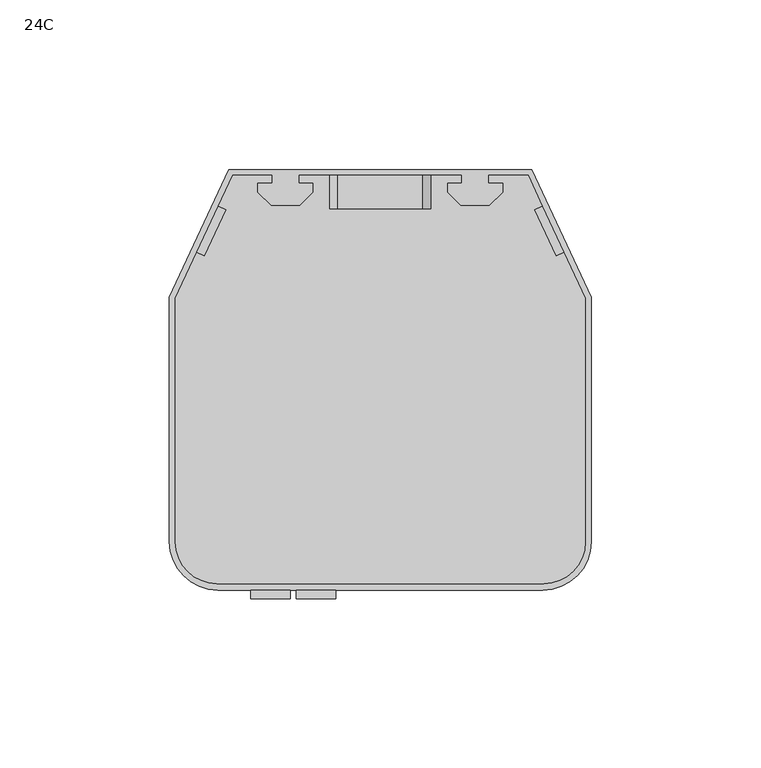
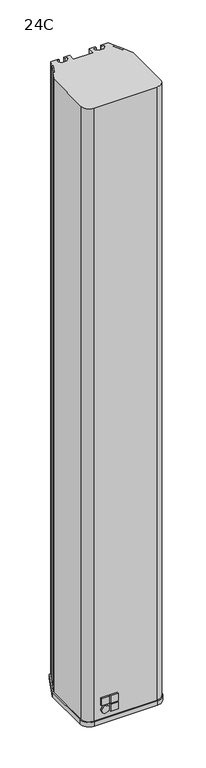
"""IFC4 building model written with IfcOpenShell, lengths in millimetres: proxy geometry, d&b xC-Series 24C Column : 24C."""

from ifc_helpers import new_model, si_unit, point, frame, frame_2d, origin, place, context, project, spatial, polyline, circle_curve, trimmed, segment, composite_curve, outline, extrude, source, transform, mapped, element, save
from ifc_brep_helpers import plane_surface, cylinder_surface, revolved_surface, advanced_brep


def proxy_24c_b1119e3b(model_context):
    return source(origin(), model_context, "Body", "SolidModel", [
        extrude(outline(polyline([(45.5615282, 50.1303765), (47.8272976, 51.1869221), (54.1607261, 37.604841), (51.8949566, 36.5482954), (45.5615282, 50.1303765)])), frame((0.0, 0.0, -493.0), z_axis=(0.0, 0.0, 1.0), x_axis=(1.0, 0.0, 0.0)), (0.0, 0.0, 1.0), 986.0),
        extrude(outline(polyline([(-45.5615282, 50.1303765), (-51.8949566, 36.5482954), (-54.1607261, 37.604841), (-47.8272976, 51.1869221), (-45.5615282, 50.1303765)])), frame((0.0, 0.0, -493.0), z_axis=(0.0, 0.0, 1.0), x_axis=(1.0, 0.0, 0.0)), (0.0, 0.0, 1.0), 986.0),
        advanced_brep(
        [(-32.05, 60.25, 493.0), (-43.601115, 60.25, 493.0), (-47.8272976, 51.1869221, 493.0), (-45.5615282, 50.1303765, 493.0), (-51.8949566, 36.5482954, 493.0), (-54.1607261, 37.604841, 493.0), (-60.5, 24.0102242, 493.0), (-60.5, -47.962132, 493.0), (-48.212132, -60.25, 493.0), (48.212132, -60.25, 493.0), (60.5, -47.962132, 493.0), (60.5, 24.0102242, 493.0), (54.1607261, 37.604841, 493.0), (51.8949566, 36.5482954, 493.0), (45.5615282, 50.1303765, 493.0), (47.8272976, 51.1869221, 493.0), (43.601115, 60.25, 493.0), (32.05, 60.25, 493.0), (32.05, 58.0499992, 493.0), (36.2500003, 58.0499992, 493.0), (36.2500003, 55.2955341, 493.0), (32.2044662, 51.25, 493.0), (23.7999989, 51.25, 493.0), (19.7499997, 55.2999992, 493.0), (19.7499997, 58.0499992, 493.0), (23.95, 58.0499992, 493.0), (23.95, 60.25, 493.0), (15.0, 60.25, 493.0), (15.0, 50.25, 493.0), (-15.0, 50.25, 493.0), (-15.0, 60.25, 493.0), (-23.95, 60.25, 493.0), (-23.95, 58.0499992, 493.0), (-19.7499997, 58.0499992, 493.0), (-19.7499997, 55.2999992, 493.0), (-23.7999989, 51.25, 493.0), (-32.2044662, 51.25, 493.0), (-36.2500003, 55.2955341, 493.0), (-36.2500003, 58.0499992, 493.0), (-32.05, 58.0499992, 493.0), (-32.05, 60.25, -493.0), (-32.05, 58.0499992, -493.0), (-36.2500003, 58.0499992, -493.0), (-36.2500003, 55.2955341, -493.0), (-32.2044662, 51.25, -493.0), (-23.7999989, 51.25, -493.0), (-19.7499997, 55.2999992, -493.0), (-19.7499997, 58.0499992, -493.0), (-23.95, 58.0499992, -493.0), (-23.95, 60.25, -493.0), (23.95, 60.25, -493.0), (23.95, 58.0499992, -493.0), (19.7499997, 58.0499992, -493.0), (19.7499997, 55.2999992, -493.0), (23.7999989, 51.25, -493.0), (32.2044662, 51.25, -493.0), (36.2500003, 55.2955341, -493.0), (36.2500003, 58.0499992, -493.0), (32.05, 58.0499992, -493.0), (32.05, 60.25, -493.0), (43.601115, 60.25, -493.0), (47.8272976, 51.1869221, -493.0), (45.5615282, 50.1303765, -493.0), (51.8949566, 36.5482954, -493.0), (54.1607261, 37.604841, -493.0), (60.5, 24.0102242, -493.0), (60.5, -47.962132, -493.0), (48.212132, -60.25, -493.0), (-48.212132, -60.25, -493.0), (-60.5, -47.962132, -493.0), (-60.5, 24.0102242, -493.0), (-54.1607261, 37.604841, -493.0), (-51.8949566, 36.5482954, -493.0), (-45.5615282, 50.1303765, -493.0), (-47.8272976, 51.1869221, -493.0), (-43.601115, 60.25, -493.0), (-15.0, 60.25, 461.5), (-12.5, 60.25, 459.0), (12.5, 60.25, 459.0), (15.0, 60.25, 461.5), (-3.375, 60.25, -263.5), (-3.375, 60.25, -365.0), (3.375, 60.25, -365.0), (3.375, 60.25, -263.5), (15.0, 50.25, 461.5), (12.5, 50.25, 459.0), (-12.5, 50.25, 459.0), (-15.0, 50.25, 461.5), (-3.375, 57.0, -365.0), (-3.375, 57.0, -263.5), (3.375, 57.0, -263.5), (3.375, 57.0, -365.0)],
        [
            (0, 1),
            (1, 2),
            (2, 3),
            (3, 4),
            (4, 5),
            (5, 6),
            (6, 7),
            (7, 8, circle_curve(frame((-48.212132, -47.962132, 493.0), z_axis=(0.0, 0.0, 1.0), x_axis=(-1.0, 0.0, 0.0)), 12.287868)),
            (8, 9),
            (9, 10, circle_curve(frame((48.212132, -47.962132, 493.0), z_axis=(0.0, 0.0, 1.0), x_axis=(-1.0, 0.0, 0.0)), 12.287868)),
            (10, 11),
            (11, 12),
            (12, 13),
            (13, 14),
            (14, 15),
            (15, 16),
            (16, 17),
            (17, 18),
            (18, 19),
            (19, 20),
            (20, 21),
            (21, 22),
            (22, 23),
            (23, 24),
            (24, 25),
            (25, 26),
            (26, 27),
            (27, 28),
            (28, 29),
            (29, 30),
            (30, 31),
            (31, 32),
            (32, 33),
            (33, 34),
            (34, 35),
            (35, 36),
            (36, 37),
            (37, 38),
            (38, 39),
            (39, 0),
            (40, 41),
            (41, 42),
            (42, 43),
            (43, 44),
            (44, 45),
            (45, 46),
            (46, 47),
            (47, 48),
            (48, 49),
            (49, 50),
            (50, 51),
            (51, 52),
            (52, 53),
            (53, 54),
            (54, 55),
            (55, 56),
            (56, 57),
            (57, 58),
            (58, 59),
            (59, 60),
            (60, 61),
            (61, 62),
            (62, 63),
            (63, 64),
            (64, 65),
            (65, 66),
            (66, 67, circle_curve(frame((48.212132, -47.962132, -493.0), z_axis=(0.0, 0.0, -1.0), x_axis=(-1.0, 0.0, 0.0)), 12.287868)),
            (67, 68),
            (68, 69, circle_curve(frame((-48.212132, -47.962132, -493.0), z_axis=(0.0, 0.0, -1.0), x_axis=(-1.0, 0.0, 0.0)), 12.287868)),
            (69, 70),
            (70, 71),
            (71, 72),
            (72, 73),
            (73, 74),
            (74, 75),
            (75, 40),
            (0, 40),
            (75, 1),
            (6, 70),
            (69, 7),
            (68, 8),
            (67, 9),
            (66, 10),
            (65, 11),
            (64, 12),
            (16, 60),
            (59, 17),
            (58, 18),
            (57, 19),
            (56, 20),
            (55, 21),
            (54, 22),
            (53, 23),
            (52, 24),
            (51, 25),
            (50, 26),
            (49, 31),
            (30, 76),
            (76, 77, circle_curve(frame((-12.5, 60.25, 461.5), z_axis=(0.0, -1.0, 0.0), x_axis=(-1.0, 0.0, 0.0)), 2.5)),
            (77, 78),
            (78, 79, circle_curve(frame((12.5, 60.25, 461.5), z_axis=(0.0, -1.0, 0.0), x_axis=(-1.0, 0.0, 0.0)), 2.5)),
            (79, 27),
            (80, 81),
            (81, 82, circle_curve(frame((0.0, 60.25, -365.0), z_axis=(0.0, -1.0, 0.0), x_axis=(-1.0, 0.0, 0.0)), 3.375)),
            (82, 83),
            (83, 80, circle_curve(frame((0.0, 60.25, -263.5), z_axis=(0.0, -1.0, 0.0), x_axis=(-1.0, 0.0, 0.0)), 3.375)),
            (48, 32),
            (47, 33),
            (46, 34),
            (45, 35),
            (44, 36),
            (43, 37),
            (42, 38),
            (41, 39),
            (84, 85, circle_curve(frame((12.5, 50.25, 461.5), z_axis=(0.0, 1.0, 0.0), x_axis=(-1.0, 0.0, 0.0)), 2.5)),
            (85, 86),
            (86, 87, circle_curve(frame((-12.5, 50.25, 461.5), z_axis=(0.0, 1.0, 0.0), x_axis=(-1.0, 0.0, 0.0)), 2.5)),
            (87, 29),
            (28, 84),
            (84, 79),
            (78, 85),
            (77, 86),
            (76, 87),
            (88, 89),
            (89, 90, circle_curve(frame((0.0, 57.0, -263.5), z_axis=(0.0, 1.0, 0.0), x_axis=(-1.0, 0.0, 0.0)), 3.375)),
            (90, 91),
            (91, 88, circle_curve(frame((0.0, 57.0, -365.0), z_axis=(0.0, 1.0, 0.0), x_axis=(-1.0, 0.0, 0.0)), 3.375)),
            (88, 81),
            (80, 89),
            (83, 90),
            (82, 91),
            (63, 13),
            (62, 14),
            (61, 15),
            (74, 2),
            (73, 3),
            (72, 4),
            (71, 5),
        ],
        [
            plane_surface(frame((-42.0084394, 60.25, 493.0), z_axis=(0.0, 0.0, 1.0), x_axis=(-1.0, 0.0, 0.0))),
            plane_surface(frame((-42.0084394, 60.25, -493.0), z_axis=(0.0, 0.0, -1.0), x_axis=(1.0, 0.0, 0.0))),
            plane_surface(frame((-32.05, 60.25, 493.0), z_axis=(0.0, 1.0, 0.0), x_axis=(0.0, 0.0, -1.0))),
            plane_surface(frame((-60.5, 24.0102242, 493.0), z_axis=(-1.0, 0.0, 0.0), x_axis=(0.0, 0.0, -1.0))),
            cylinder_surface(frame((-48.212132, -47.962132, -493.0), z_axis=(0.0, 0.0, 1.0), x_axis=(-1.0, 0.0, 0.0)), 12.287868),
            plane_surface(frame((-48.212132, -60.25, 493.0), z_axis=(0.0, -1.0, 0.0), x_axis=(0.0, 0.0, -1.0))),
            cylinder_surface(frame((48.212132, -47.962132, -493.0), z_axis=(0.0, 0.0, 1.0), x_axis=(-1.0, 0.0, 0.0)), 12.287868),
            plane_surface(frame((60.5, -47.962132, 493.0), z_axis=(1.0, 0.0, 0.0), x_axis=(0.0, 0.0, -1.0))),
            plane_surface(frame((60.5, 24.0102242, 493.0), z_axis=(0.9063077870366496, 0.4226182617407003, 0.0), x_axis=(0.0, 0.0, -1.0))),
            plane_surface(frame((43.601115, 60.25, 493.0), z_axis=(0.0, 1.0, 0.0), x_axis=(0.0, 0.0, -1.0))),
            plane_surface(frame((32.05, 60.25, 493.0), z_axis=(-1.0, 0.0, 0.0), x_axis=(0.0, 0.0, -1.0))),
            plane_surface(frame((32.05, 58.0499992, 493.0), z_axis=(0.0, -1.0, 0.0), x_axis=(0.0, 0.0, -1.0))),
            plane_surface(frame((36.2500003, 58.0499992, 493.0), z_axis=(-1.0, 0.0, 0.0), x_axis=(0.0, 0.0, -1.0))),
            plane_surface(frame((36.2500003, 55.2955341, 493.0), z_axis=(-0.7071067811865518, 0.7071067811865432, 0.0), x_axis=(0.0, 0.0, -1.0))),
            plane_surface(frame((32.2044662, 51.25, 493.0), z_axis=(0.0, 1.0, 0.0), x_axis=(0.0, 0.0, -1.0))),
            plane_surface(frame((23.7999989, 51.25, 493.0), z_axis=(0.7071067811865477, 0.7071067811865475, 0.0), x_axis=(0.0, 0.0, -1.0))),
            plane_surface(frame((19.7499997, 55.2999992, 493.0), z_axis=(1.0, 0.0, 0.0), x_axis=(0.0, 0.0, -1.0))),
            plane_surface(frame((19.7499997, 58.0499992, 493.0), z_axis=(0.0, -1.0, 0.0), x_axis=(0.0, 0.0, -1.0))),
            plane_surface(frame((23.95, 58.0499992, 493.0), z_axis=(1.0, 0.0, 0.0), x_axis=(0.0, 0.0, -1.0))),
            plane_surface(frame((23.95, 60.25, 493.0), z_axis=(0.0, 1.0, 0.0), x_axis=(0.0, 0.0, -1.0))),
            plane_surface(frame((-23.95, 60.25, 493.0), z_axis=(-1.0, 0.0, 0.0), x_axis=(0.0, 0.0, -1.0))),
            plane_surface(frame((-23.95, 58.0499992, 493.0), z_axis=(0.0, -1.0, 0.0), x_axis=(0.0, 0.0, -1.0))),
            plane_surface(frame((-19.7499997, 58.0499992, 493.0), z_axis=(-1.0, 0.0, 0.0), x_axis=(0.0, 0.0, -1.0))),
            plane_surface(frame((-19.7499997, 55.2999992, 493.0), z_axis=(-0.7071067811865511, 0.707106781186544, 0.0), x_axis=(0.0, 0.0, -1.0))),
            plane_surface(frame((-23.7999989, 51.25, 493.0), z_axis=(0.0, 1.0, 0.0), x_axis=(0.0, 0.0, -1.0))),
            plane_surface(frame((-32.2044662, 51.25, 493.0), z_axis=(0.7071067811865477, 0.7071067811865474, 0.0), x_axis=(0.0, 0.0, -1.0))),
            plane_surface(frame((-36.2500003, 55.2955341, 493.0), z_axis=(1.0, 0.0, 0.0), x_axis=(0.0, 0.0, -1.0))),
            plane_surface(frame((-36.2500003, 58.0499992, 493.0), z_axis=(0.0, -1.0, 0.0), x_axis=(0.0, 0.0, -1.0))),
            plane_surface(frame((-32.05, 58.0499992, 493.0), z_axis=(1.0, 0.0, 0.0), x_axis=(0.0, 0.0, -1.0))),
            plane_surface(frame((10.0, 50.25, 461.5), z_axis=(0.0, 1.0, 0.0), x_axis=(0.0, 0.0, -1.0))),
            revolved_surface(polyline([(10.0, 60.25, 461.5), (10.0, 50.25, 461.5)]), (12.5, 50.25, 461.5), (0.0, 1.0, 0.0)),
            plane_surface(frame((12.5, 62.0, 459.0), z_axis=(0.0, 0.0, 1.0), x_axis=(0.0, -1.0, 0.0))),
            revolved_surface(polyline([(-15.0, 60.25, 461.5), (-15.0, 50.25, 461.5)]), (-12.5, 50.25, 461.5), (0.0, 1.0, 0.0)),
            plane_surface(frame((-15.0, 62.0, 461.5), z_axis=(1.0, 0.0, 0.0), x_axis=(0.0, -1.0, 0.0))),
            plane_surface(frame((15.0, 62.0, 493.0), z_axis=(-1.0, 0.0, 0.0), x_axis=(0.0, -1.0, 0.0))),
            plane_surface(frame((-3.375, 57.0, -286.8896769), z_axis=(0.0, 1.0, 0.0), x_axis=(0.0, 0.0, -1.0))),
            plane_surface(frame((-3.375, 62.0, -365.0), z_axis=(1.0, 0.0, 0.0), x_axis=(0.0, -1.0, 0.0))),
            revolved_surface(polyline([(-3.375, 60.25, -263.5), (-3.375, 57.0, -263.5)]), (0.0, 57.0, -263.5), (0.0, 1.0, 0.0)),
            plane_surface(frame((3.375, 62.0, -263.5), z_axis=(-1.0, 0.0, 0.0), x_axis=(0.0, -1.0, 0.0))),
            revolved_surface(polyline([(-3.375, 60.25, -365.0), (-3.375, 57.0, -365.0)]), (0.0, 57.0, -365.0), (0.0, 1.0, 0.0)),
            plane_surface(frame((54.1607261, 37.604841, 493.0), z_axis=(-0.4226182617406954, 0.9063077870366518, 0.0), x_axis=(0.0, 0.0, -1.0))),
            plane_surface(frame((51.8949566, 36.5482954, 493.0), z_axis=(0.906307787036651, 0.4226182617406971, 0.0), x_axis=(0.0, 0.0, -1.0))),
            plane_surface(frame((45.5615282, 50.1303765, 493.0), z_axis=(0.42261826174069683, -0.9063077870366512, 0.0), x_axis=(0.0, 0.0, -1.0))),
            plane_surface(frame((47.8272976, 51.1869221, 493.0), z_axis=(0.9063077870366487, 0.4226182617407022, 0.0), x_axis=(0.0, 0.0, -1.0))),
            plane_surface(frame((-43.601115, 60.25, 493.0), z_axis=(-0.9063077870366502, 0.42261826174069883, 0.0), x_axis=(0.0, 0.0, -1.0))),
            plane_surface(frame((-47.8272976, 51.1869221, 493.0), z_axis=(-0.4226182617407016, -0.906307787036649, 0.0), x_axis=(0.0, 0.0, -1.0))),
            plane_surface(frame((-45.5615282, 50.1303765, 493.0), z_axis=(-0.9063077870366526, 0.4226182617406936, 0.0), x_axis=(0.0, 0.0, -1.0))),
            plane_surface(frame((-51.8949566, 36.5482954, 493.0), z_axis=(0.42261826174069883, 0.9063077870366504, 0.0), x_axis=(0.0, 0.0, -1.0))),
            plane_surface(frame((-54.1607261, 37.604841, 493.0), z_axis=(-0.9063077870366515, 0.4226182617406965, 0.0), x_axis=(0.0, 0.0, -1.0))),
        ],
        [
            (0, [[1, 2, 3, 4, 5, 6, 7, 8, 9, 10, 11, 12, 13, 14, 15, 16, 17, 18, 19, 20, 21, 22, 23, 24, 25, 26, 27, 28, 29, 30, 31, 32, 33, 34, 35, 36, 37, 38, 39, 40]]),
            (1, [[41, 42, 43, 44, 45, 46, 47, 48, 49, 50, 51, 52, 53, 54, 55, 56, 57, 58, 59, 60, 61, 62, 63, 64, 65, 66, 67, 68, 69, 70, 71, 72, 73, 74, 75, 76]]),
            (2, [[-1, 77, -76, 78]]),
            (3, [[-7, 79, -70, 80]]),
            (4, [[-8, -80, -69, 81]]),
            (5, [[-9, -81, -68, 82]]),
            (6, [[-10, -82, -67, 83]]),
            (7, [[-11, -83, -66, 84]]),
            (8, [[-12, -84, -65, 85]]),
            (9, [[-17, 86, -60, 87]]),
            (10, [[-18, -87, -59, 88]]),
            (11, [[-19, -88, -58, 89]]),
            (12, [[-20, -89, -57, 90]]),
            (13, [[-21, -90, -56, 91]]),
            (14, [[-22, -91, -55, 92]]),
            (15, [[-23, -92, -54, 93]]),
            (16, [[-24, -93, -53, 94]]),
            (17, [[-25, -94, -52, 95]]),
            (18, [[-26, -95, -51, 96]]),
            (19, [[-50, 97, -31, 98, 99, 100, 101, 102, -27, -96], [103, 104, 105, 106]]),
            (20, [[-32, -97, -49, 107]]),
            (21, [[-33, -107, -48, 108]]),
            (22, [[-34, -108, -47, 109]]),
            (23, [[-35, -109, -46, 110]]),
            (24, [[-36, -110, -45, 111]]),
            (25, [[-37, -111, -44, 112]]),
            (26, [[-38, -112, -43, 113]]),
            (27, [[-39, -113, -42, 114]]),
            (28, [[-40, -114, -41, -77]]),
            (29, [[115, 116, 117, 118, -29, 119]]),
            (30, [[-115, 120, -101, 121]]),
            (31, [[-116, -121, -100, 122]]),
            (32, [[-117, -122, -99, 123]]),
            (33, [[-118, -123, -98, -30]]),
            (34, [[-119, -28, -102, -120]]),
            (35, [[124, 125, 126, 127]]),
            (36, [[-124, 128, -103, 129]]),
            (37, [[-125, -129, -106, 130]]),
            (38, [[-126, -130, -105, 131]]),
            (39, [[-127, -131, -104, -128]]),
            (40, [[-13, -85, -64, 132]]),
            (41, [[-14, -132, -63, 133]]),
            (42, [[-15, -133, -62, 134]]),
            (43, [[-16, -134, -61, -86]]),
            (44, [[-2, -78, -75, 135]]),
            (45, [[-3, -135, -74, 136]]),
            (46, [[-4, -136, -73, 137]]),
            (47, [[-5, -137, -72, 138]]),
            (48, [[-6, -138, -71, -79]]),
        ],
    ),
        extrude(outline(polyline([(-38.212132, -62.0), (-26.5454654, -62.0), (-26.5454654, -64.5), (-38.212132, -64.5), (-38.212132, -62.0)])), frame((0.0, 0.0, -469.6666667), z_axis=(0.0, 0.0, 1.0), x_axis=(1.0, 0.0, 0.0)), (0.0, 0.0, 1.0), 11.6666667),
        extrude(outline(polyline([(-24.8787987, -62.0), (-13.212132, -62.0), (-13.212132, -64.5), (-24.8787987, -64.5), (-24.8787987, -62.0)])), frame((0.0, 0.0, -469.6666667), z_axis=(0.0, 0.0, 1.0), x_axis=(1.0, 0.0, 0.0)), (0.0, 0.0, 1.0), 11.6666667),
        extrude(outline(polyline([(-24.8787987, -62.0), (-13.212132, -62.0), (-13.212132, -64.5), (-24.8787987, -64.5), (-24.8787987, -62.0)])), frame((0.0, 0.0, -483.0), z_axis=(0.0, 0.0, 1.0), x_axis=(1.0, 0.0, 0.0)), (0.0, 0.0, 1.0), 11.6666667),
        extrude(outline(composite_curve([segment(trimmed(circle_curve(frame_2d((-477.1666667, -32.3787987)), 5.8333333), [point((-477.1666667, -26.5454654))], [point((-477.1666667, -38.212132))], False, "CARTESIAN"), True, "CONTINUOUS"), segment(trimmed(circle_curve(frame_2d((-477.1666667, -32.3787987)), 5.8333333), [point((-477.1666667, -38.212132))], [point((-477.1666667, -26.5454654))], False, "CARTESIAN"), True, "CONTINUOUS")], self_intersect=False)), frame((0.0, -64.5, 0.0), z_axis=(0.0, 1.0, 0.0), x_axis=(0.0, 0.0, 1.0)), (0.0, 0.0, 1.0), 2.5),
        extrude(outline(composite_curve([segment(polyline([(44.715988, 62.0), (62.25, 24.3981899), (62.25, -47.75)]), True, "CONTINUOUS"), segment(trimmed(circle_curve(frame_2d((48.0, -47.75)), 14.25), [point((62.25, -47.75))], [point((48.0, -62.0))], False, "CARTESIAN"), True, "CONTINUOUS"), segment(polyline([(48.0, -62.0), (-48.0, -62.0)]), True, "CONTINUOUS"), segment(trimmed(circle_curve(frame_2d((-48.0, -47.75)), 14.25), [point((-48.0, -62.0))], [point((-62.25, -47.75))], False, "CARTESIAN"), True, "CONTINUOUS"), segment(polyline([(-62.25, -47.75), (-62.25, 24.3981899), (-44.715988, 62.0), (44.715988, 62.0)]), True, "CONTINUOUS")], self_intersect=False)), frame((0.0, 0.0, -500.0), z_axis=(0.0, 0.0, 1.0), x_axis=(1.0, 0.0, 0.0)), (0.0, 0.0, 1.0), 7.0),
    ])


if __name__ == "__main__":
    model = new_model("IFC4")
    model_context = context("Model", 3, world=origin())
    ifc_project = project(units=[si_unit("LENGTHUNIT", "METRE", prefix="MILLI")], contexts=[model_context])
    site = spatial("IfcSite", under=ifc_project)
    building = spatial("IfcBuilding", under=site)
    placement = place(None, origin())
    proxy_24c_shape = proxy_24c_b1119e3b(model_context)
    element("IfcBuildingElementProxy", 1, Name="d&b xC-Series 24C Column : 24C", ObjectType="d&b xC-Series 24C Column : 24C", at=placement, inside=building, context=model_context, shape_type="MappedRepresentation", body=[
        mapped(proxy_24c_shape, transform((0.0, 0.0, 0.0), x_axis=(1.0, 0.0, 0.0), y_axis=(0.0, 1.0, 0.0), z_axis=(0.0, 0.0, 1.0))),
    ])
    save(model, "model.ifc")
